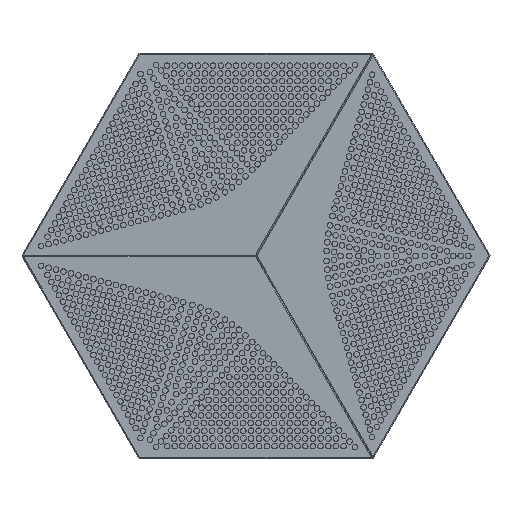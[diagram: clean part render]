
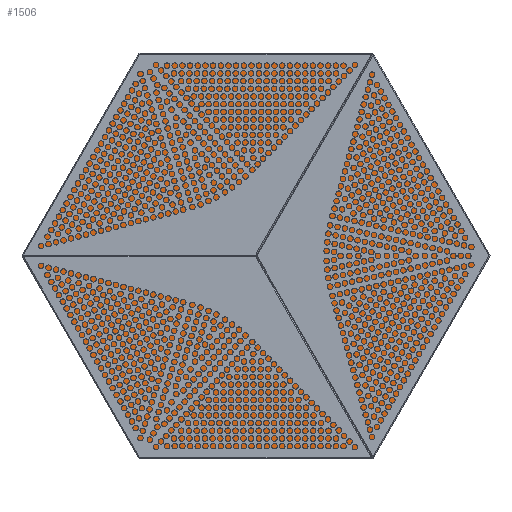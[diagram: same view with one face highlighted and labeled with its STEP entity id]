
A CAD part, top view. The second image highlights one B-rep face of the part: STEP entity #1506.
In plain terms, the highlighted planar face has unit normal (0, 0, -1).
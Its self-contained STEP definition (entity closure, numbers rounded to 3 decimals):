
#1506=ADVANCED_FACE('',(#1528),#9217,.T.);
#1528=FACE_OUTER_BOUND('',#1550,.T.);
#1550=EDGE_LOOP('',(#3072,#3073,#3074,#3075,#3076,#3077));
#3072=ORIENTED_EDGE('',*,*,#4649,.F.);
#3073=ORIENTED_EDGE('',*,*,#4651,.F.);
#3074=ORIENTED_EDGE('',*,*,#4650,.F.);
#3075=ORIENTED_EDGE('',*,*,#4646,.F.);
#3076=ORIENTED_EDGE('',*,*,#4647,.F.);
#3077=ORIENTED_EDGE('',*,*,#4648,.F.);
#4646=EDGE_CURVE('',#7708,#7709,#7667,.T.);
#4647=EDGE_CURVE('',#7710,#7708,#7668,.T.);
#4648=EDGE_CURVE('',#7711,#7710,#7669,.T.);
#4649=EDGE_CURVE('',#7712,#7711,#7670,.T.);
#4650=EDGE_CURVE('',#7709,#7713,#7671,.T.);
#4651=EDGE_CURVE('',#7713,#7712,#7672,.T.);
#7667=B_SPLINE_CURVE_WITH_KNOTS('',1,(#10972,#10973),.UNSPECIFIED.,.F.,
 .F.,(2,2),(-1000.,-750.),.UNSPECIFIED.);
#7668=B_SPLINE_CURVE_WITH_KNOTS('',1,(#10974,#10975),.UNSPECIFIED.,.F.,
 .F.,(2,2),(-1250.,-1000.),.UNSPECIFIED.);
#7669=B_SPLINE_CURVE_WITH_KNOTS('',1,(#10976,#10977),.UNSPECIFIED.,.F.,
 .F.,(2,2),(-1500.,-1250.),.UNSPECIFIED.);
#7670=B_SPLINE_CURVE_WITH_KNOTS('',1,(#10978,#10979),.UNSPECIFIED.,.F.,
 .F.,(2,2),(-250.,0.),.UNSPECIFIED.);
#7671=B_SPLINE_CURVE_WITH_KNOTS('',1,(#10980,#10981),.UNSPECIFIED.,.F.,
 .F.,(2,2),(-750.,-500.),.UNSPECIFIED.);
#7672=B_SPLINE_CURVE_WITH_KNOTS('',1,(#10982,#10983),.UNSPECIFIED.,.F.,
 .F.,(2,2),(-500.,-250.),.UNSPECIFIED.);
#7708=VERTEX_POINT('',#9403);
#7709=VERTEX_POINT('',#9404);
#7710=VERTEX_POINT('',#9405);
#7711=VERTEX_POINT('',#9406);
#7712=VERTEX_POINT('',#9407);
#7713=VERTEX_POINT('',#9408);
#9217=PLANE('',#9327);
#9327=AXIS2_PLACEMENT_3D('',#9377,#9352,$);
#9352=DIRECTION('',(0.,0.,-1.));
#9377=CARTESIAN_POINT('',(425.,476.314,0.));
#9403=CARTESIAN_POINT('',(0.,0.,0.));
#9404=CARTESIAN_POINT('',(250.,0.,0.));
#9405=CARTESIAN_POINT('',(-125.,216.506,0.));
#9406=CARTESIAN_POINT('',(0.,433.013,0.));
#9407=CARTESIAN_POINT('',(250.,433.013,0.));
#9408=CARTESIAN_POINT('',(375.,216.506,0.));
#10972=CARTESIAN_POINT('',(0.,0.,0.));
#10973=CARTESIAN_POINT('',(250.,0.,0.));
#10974=CARTESIAN_POINT('',(-125.,216.506,0.));
#10975=CARTESIAN_POINT('',(0.,0.,0.));
#10976=CARTESIAN_POINT('',(0.,433.013,0.));
#10977=CARTESIAN_POINT('',(-125.,216.506,0.));
#10978=CARTESIAN_POINT('',(250.,433.013,0.));
#10979=CARTESIAN_POINT('',(0.,433.013,0.));
#10980=CARTESIAN_POINT('',(250.,0.,0.));
#10981=CARTESIAN_POINT('',(375.,216.506,0.));
#10982=CARTESIAN_POINT('',(375.,216.506,0.));
#10983=CARTESIAN_POINT('',(250.,433.013,0.));
